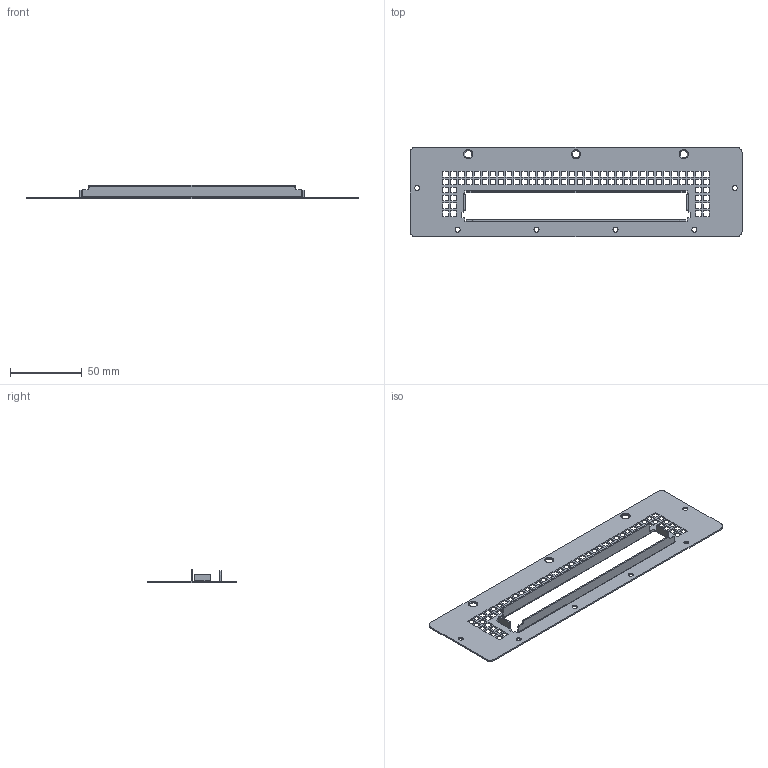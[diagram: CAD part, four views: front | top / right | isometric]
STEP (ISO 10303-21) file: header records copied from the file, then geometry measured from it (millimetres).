
FILE_DESCRIPTION((''),'2;1');
FILE_NAME('OCP3-FIX-FACE-INSERT-DSFF-TDSFF','2025-07-16T16:25:57',('T_Dawson'),('Dell Technologies'),'CREO PARAMETRIC BY PTC INC, 2023294','CREO PARAMETRIC BY PTC INC, 2023294','');
FILE_SCHEMA(('AUTOMOTIVE_DESIGN { 1 0 10303 214 1 1 1 1 }'));
Length unit declared in the file: millimetre
Products named in the file (1): OCP3-FIX-FACE-INSERT-DSFF-TDSFF
Bounding box: 231.2 x 62.58 x 9.3 mm (x, y, z)
Volume: 12356.4 mm3; surface area: 27167.7 mm2
Topology: 1 solids, 1 shells, 448 faces, 1304 edges, 879 vertices
Faces by surface type: plane 396, cylinder 46, cone 6
Entity records: 19831 total; most frequent: CARTESIAN_POINT 2713, ORIENTED_EDGE 2600, DIRECTION 2423, PRESENTATION_STYLE_ASSIGNMENT 1313, STYLED_ITEM 1313, CURVE_STYLE 1312, EDGE_CURVE 1300, VECTOR 1217
